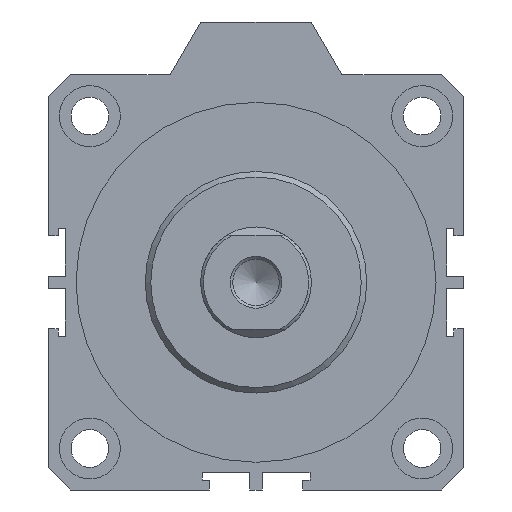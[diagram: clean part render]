
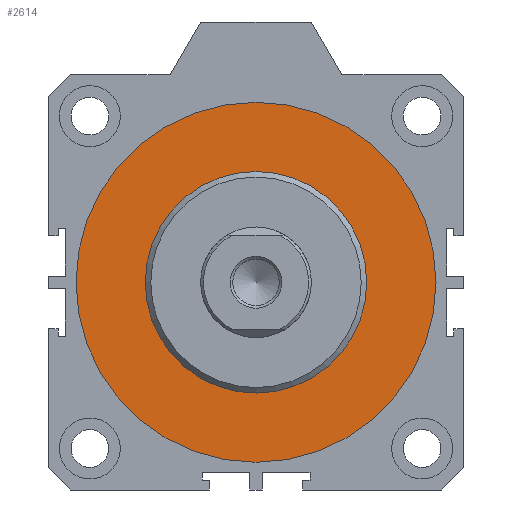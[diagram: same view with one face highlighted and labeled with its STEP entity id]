
A CAD part, front view. The second image highlights one B-rep face of the part: STEP entity #2614.
In plain terms, the highlighted planar face has unit normal (0, -1, 0).
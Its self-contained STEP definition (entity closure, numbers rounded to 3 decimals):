
#782=ORIENTED_EDGE('',*,*,#1040,.T.);
#783=ORIENTED_EDGE('',*,*,#1042,.T.);
#1040=EDGE_CURVE('',#1220,#1220,#1297,.T.);
#1042=EDGE_CURVE('',#1222,#1222,#1299,.F.);
#1220=VERTEX_POINT('',#3821);
#1222=VERTEX_POINT('',#3827);
#1297=CIRCLE('',#2799,32.5);
#1299=CIRCLE('',#2803,20.);
#1465=EDGE_LOOP('',(#782));
#1466=EDGE_LOOP('',(#783));
#1653=FACE_BOUND('',#1465,.T.);
#1654=FACE_BOUND('',#1466,.T.);
#1757=PLANE('',#2802);
#2614=ADVANCED_FACE('',(#1653,#1654),#1757,.T.);
#2799=AXIS2_PLACEMENT_3D('',#3820,#3279,#3280);
#2802=AXIS2_PLACEMENT_3D('',#3825,#3285,#3286);
#2803=AXIS2_PLACEMENT_3D('',#3826,#3287,#3288);
#3279=DIRECTION('',(0.,-1.,0.));
#3280=DIRECTION('',(0.,0.,-1.));
#3285=DIRECTION('',(0.,-1.,0.));
#3286=DIRECTION('',(0.,0.,-1.));
#3287=DIRECTION('',(0.,-1.,0.));
#3288=DIRECTION('',(0.,0.,-1.));
#3820=CARTESIAN_POINT('',(0.,-2.6,0.));
#3821=CARTESIAN_POINT('',(0.,-2.6,-32.5));
#3825=CARTESIAN_POINT('',(0.,-2.6,0.));
#3826=CARTESIAN_POINT('',(0.,-2.6,0.));
#3827=CARTESIAN_POINT('',(0.,-2.6,-20.));
